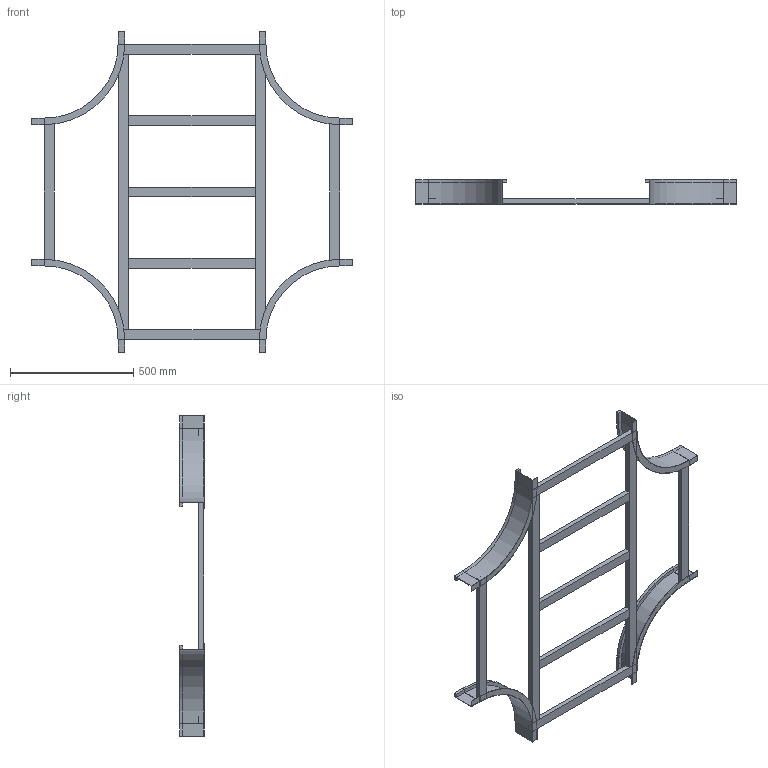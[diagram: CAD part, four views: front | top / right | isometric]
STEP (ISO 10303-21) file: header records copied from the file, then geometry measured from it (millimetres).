
FILE_DESCRIPTION (( 'STEP AP214' ), '1' );
FILE_NAME ('B2_17B3D600.step', '2025-02-21T15:55:45', ( '' ), ( '' ), 'SwSTEP 2.0', 'SolidWorks 2023', '' );
FILE_SCHEMA (( 'AUTOMOTIVE_DESIGN' ));
Length unit declared in the file: millimetre
Products named in the file (5): B2_TRAVERSINO_LONG._R300+600; TRAVERSINO_600; B2_LONGH.INTERNO 90°_H100_R300; B2_17B3D600; TRAVERSINO_INTERMEDIO_R300+600
Assembly tree (13 placements, depth 2):
  B2_17B3D600
    B2_LONGH.INTERNO 90°_H100_R300  x4
    TRAVERSINO_600  x4
    B2_TRAVERSINO_LONG._R300+600  x2
    TRAVERSINO_INTERMEDIO_R300+600  x3
Bounding box: 1300 x 100 x 1300 mm (x, y, z)
Volume: 6023096 mm3; surface area: 1427188.5 mm2
Topology: 13 solids, 13 shells, 158 faces, 332 edges, 200 vertices
Faces by surface type: plane 142, cylinder 16
Entity records: 1362 total; most frequent: DIRECTION 220, CARTESIAN_POINT 208, ORIENTED_EDGE 184, EDGE_CURVE 92, VECTOR 84, LINE 84, AXIS2_PLACEMENT_3D 68, VERTEX_POINT 56
